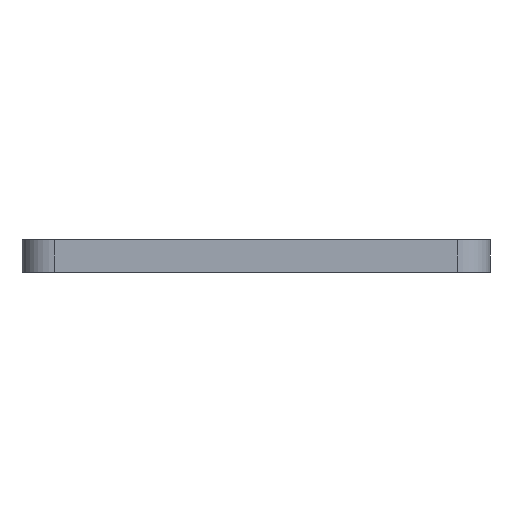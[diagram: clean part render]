
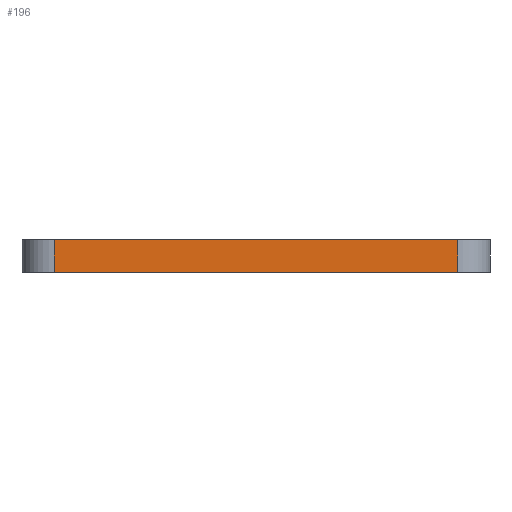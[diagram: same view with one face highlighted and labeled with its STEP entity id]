
A CAD part, left-side view. The second image highlights one B-rep face of the part: STEP entity #196.
In plain terms, the highlighted planar face has unit normal (-1, 0, 0).
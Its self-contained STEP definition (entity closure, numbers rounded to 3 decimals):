
#41 = VERTEX_POINT ( 'NONE', #1052 ) ;
#82 = FACE_OUTER_BOUND ( 'NONE', #846, .T. ) ;
#93 = VECTOR ( 'NONE', #821, 1000. ) ;
#102 = ORIENTED_EDGE ( 'NONE', *, *, #207, .T. ) ;
#121 = DIRECTION ( 'NONE',  ( 0., -1., 0. ) ) ;
#125 = EDGE_CURVE ( 'NONE', #409, #41, #1070, .T. ) ;
#131 = CARTESIAN_POINT ( 'NONE',  ( -29., -25., -4. ) ) ;
#149 = PLANE ( 'NONE',  #1025 ) ;
#189 = LINE ( 'NONE', #996, #93 ) ;
#195 = EDGE_CURVE ( 'NONE', #927, #41, #189, .T. ) ;
#196 = ADVANCED_FACE ( 'NONE', ( #82 ), #149, .T. ) ;
#207 = EDGE_CURVE ( 'NONE', #409, #973, #618, .T. ) ;
#252 = CARTESIAN_POINT ( 'NONE',  ( -29., 25., 0. ) ) ;
#290 = DIRECTION ( 'NONE',  ( 0., -1., 0. ) ) ;
#297 = CARTESIAN_POINT ( 'NONE',  ( -29., 29., -4. ) ) ;
#330 = LINE ( 'NONE', #297, #785 ) ;
#343 = VECTOR ( 'NONE', #1072, 1000. ) ;
#387 = CARTESIAN_POINT ( 'NONE',  ( -29., 29., -4. ) ) ;
#409 = VERTEX_POINT ( 'NONE', #252 ) ;
#488 = DIRECTION ( 'NONE',  ( -1., 0., 0. ) ) ;
#496 = CARTESIAN_POINT ( 'NONE',  ( -29., 29., 0. ) ) ;
#575 = DIRECTION ( 'NONE',  ( 0., 0., 1. ) ) ;
#613 = ORIENTED_EDGE ( 'NONE', *, *, #125, .F. ) ;
#618 = LINE ( 'NONE', #980, #343 ) ;
#625 = EDGE_CURVE ( 'NONE', #973, #927, #330, .T. ) ;
#785 = VECTOR ( 'NONE', #121, 1000. ) ;
#821 = DIRECTION ( 'NONE',  ( 0., 0., 1. ) ) ;
#846 = EDGE_LOOP ( 'NONE', ( #1002, #949, #613, #102 ) ) ;
#927 = VERTEX_POINT ( 'NONE', #131 ) ;
#949 = ORIENTED_EDGE ( 'NONE', *, *, #195, .T. ) ;
#971 = CARTESIAN_POINT ( 'NONE',  ( -29., 25., -4. ) ) ;
#973 = VERTEX_POINT ( 'NONE', #971 ) ;
#980 = CARTESIAN_POINT ( 'NONE',  ( -29., 25., -4. ) ) ;
#996 = CARTESIAN_POINT ( 'NONE',  ( -29., -25., -4. ) ) ;
#1002 = ORIENTED_EDGE ( 'NONE', *, *, #625, .T. ) ;
#1025 = AXIS2_PLACEMENT_3D ( 'NONE', #387, #488, #575 ) ;
#1052 = CARTESIAN_POINT ( 'NONE',  ( -29., -25., 0. ) ) ;
#1062 = VECTOR ( 'NONE', #290, 1000. ) ;
#1070 = LINE ( 'NONE', #496, #1062 ) ;
#1072 = DIRECTION ( 'NONE',  ( 0., 0., -1. ) ) ;
